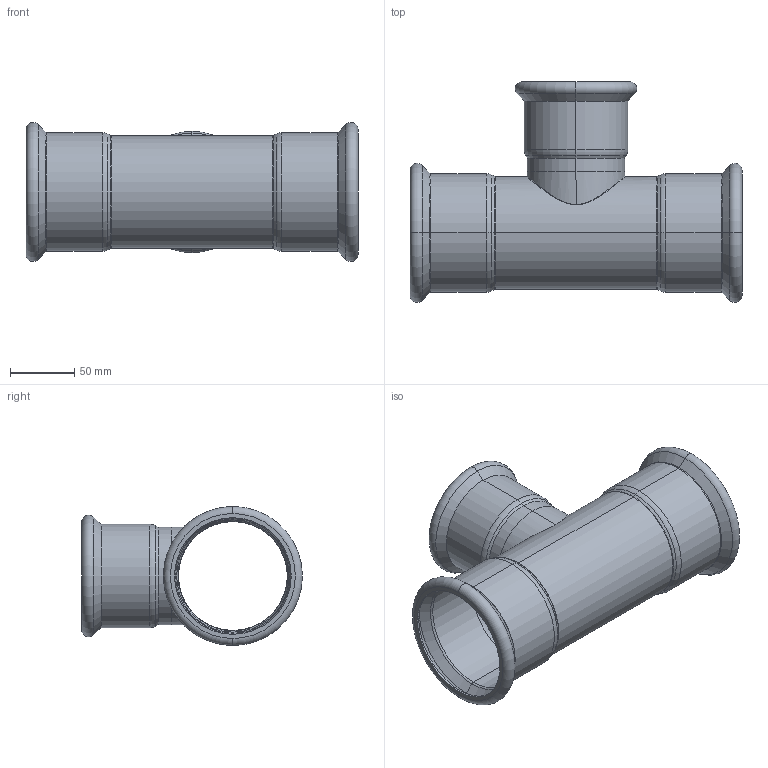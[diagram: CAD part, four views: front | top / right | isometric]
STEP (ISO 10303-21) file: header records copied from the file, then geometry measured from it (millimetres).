
FILE_DESCRIPTION (( 'STEP AP203' ), '1' );
FILE_NAME ('GDA5222.STEP', '2019-01-12T06:25:58', ( '' ), ( '' ), 'SwSTEP 2.0', 'SolidWorks 2015', '' );
FILE_SCHEMA (( 'CONFIG_CONTROL_DESIGN' ));
Length unit declared in the file: millimetre
Products named in the file (3): T-ｉ-01-76.1; GDA5222; T(R)-¢ñ-88.9¡Á76.1''
Assembly tree (2 placements, depth 2):
  GDA5222
    T(R)-¢ñ-88.9¡Á76.1''
    T-ｉ-01-76.1
Bounding box: 259 x 172.24 x 108.48 mm (x, y, z)
Volume: 156074.9 mm3; surface area: 195140.3 mm2
Topology: 2 solids, 2 shells, 110 faces, 226 edges, 124 vertices
Faces by surface type: torus 44, cylinder 30, cone 24, plane 8, bspline 4
Entity records: 4694 total; most frequent: CARTESIAN_POINT 1992, DIRECTION 596, ORIENTED_EDGE 452, AXIS2_PLACEMENT_3D 271, EDGE_CURVE 226, CIRCLE 160, VERTEX_POINT 124, EDGE_LOOP 120
